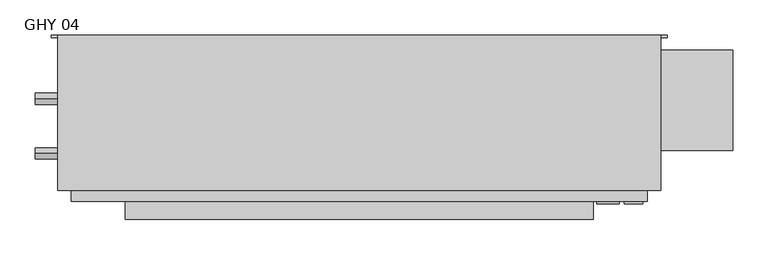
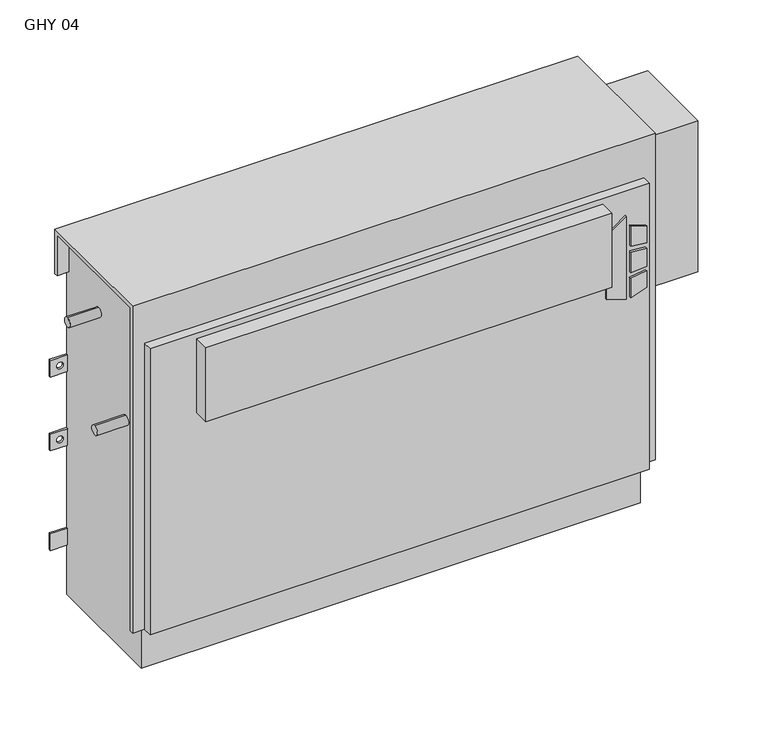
"""IFC4 building model written with IfcOpenShell, lengths in millimetres: proxy geometry, Vertical_Fan_Coil_Unit_-_GHY_-_IEC_-_2-Pipe_FS-FR_LH_2022 : GHY 04."""

import ifcopenshell
import ifcopenshell.guid

model = None  # the IFC model being written
_history = None  # IfcOwnerHistory: only IFC2X3 demands one
_inside = {}  # id of a spatial element -> (the spatial element, [elements in it])
_under = {}  # id of a project, library or spatial element -> (it, [spatial elements below it])
_declared = {}  # id of a project -> (the project, [libraries it declares])
_typed = {}  # id of a type object -> (the type object, [elements of that type])
_made_of = {}  # id of a material, layer set ... -> (it, [elements and type objects made of it])


def new_model(schema):
    """Start an empty IFC model of exactly this schema.

    Asked for "IFC4X3", IfcOpenShell would pick the latest addendum, in which some entities
    have other attributes; the version numbers below select the first issue.
    IFC2X3 requires an IfcOwnerHistory on every rooted entity: one is made here for all.
    """
    global model, _history
    if schema == "IFC4X3":
        model = ifcopenshell.file(schema_version=(4, 3, 0, 0))
    else:
        model = ifcopenshell.file(schema=schema)
    _inside.clear()
    _under.clear()
    _declared.clear()
    _typed.clear()
    _made_of.clear()
    _history = None
    if model.schema == "IFC2X3":
        org = make("IfcOrganization", Name="unknown")
        user = make(
            "IfcPersonAndOrganization",
            ThePerson=make("IfcPerson", FamilyName="unknown"),
            TheOrganization=org,
        )
        app = make(
            "IfcApplication",
            ApplicationDeveloper=org,
            Version="unknown",
            ApplicationFullName="unknown",
            ApplicationIdentifier="unknown",
        )
        _history = make(
            "IfcOwnerHistory",
            OwningUser=user,
            OwningApplication=app,
            ChangeAction="ADDED",
            CreationDate=0,
        )
    return model


def make(cls, **values):
    """One entity of the class cls with the attributes given. An attribute that is None is left unset."""
    return model.create_entity(
        cls, **{name: value for name, value in values.items() if value is not None}
    )


def rooted(cls, **values):
    """An entity with a GlobalId (a new one), such as an element, a storey or a relation."""
    return make(cls, GlobalId=ifcopenshell.guid.new(), OwnerHistory=_history, **values)


def si_unit(unit_type, name, prefix=None):
    """IfcSIUnit, for example si_unit("LENGTHUNIT", "METRE", prefix="MILLI")."""
    return make("IfcSIUnit", UnitType=unit_type, Prefix=prefix, Name=name)


def assignment(units):
    """IfcUnitAssignment: the units of a project."""
    return None if units is None else make("IfcUnitAssignment", Units=units)


def point(xyz):
    """IfcCartesianPoint."""
    return None if xyz is None else make("IfcCartesianPoint", Coordinates=xyz)


def direction(xyz):
    """IfcDirection."""
    return None if xyz is None else make("IfcDirection", DirectionRatios=xyz)


def frame(location, z_axis=None, x_axis=None):
    """IfcAxis2Placement3D, a coordinate frame: its origin and axes. An axis left out is left unset."""
    return make(
        "IfcAxis2Placement3D",
        Location=point(location),
        Axis=direction(z_axis),
        RefDirection=direction(x_axis),
    )


def frame_2d(location, x_axis=None):
    """IfcAxis2Placement2D, a coordinate frame in the plane: its origin and x axis."""
    return make(
        "IfcAxis2Placement2D", Location=point(location), RefDirection=direction(x_axis)
    )


def origin():
    """The frame at (0, 0, 0) with its axes left unset."""
    return frame((0.0, 0.0, 0.0))


def place(relative_to, where):
    """IfcLocalPlacement: puts the frame where relative to a parent placement (None: the world)."""
    return make(
        "IfcLocalPlacement", PlacementRelTo=relative_to, RelativePlacement=where
    )


def context(
    kind, dimensions, precision=None, world=None, true_north=None, identifier=None
):
    """IfcGeometricRepresentationContext, for example the 3D "Model" context."""
    return make(
        "IfcGeometricRepresentationContext",
        ContextIdentifier=identifier,
        ContextType=kind,
        CoordinateSpaceDimension=dimensions,
        Precision=precision,
        WorldCoordinateSystem=world,
        TrueNorth=true_north,
    )


def project(units=None, contexts=None):
    """IfcProject with its units and contexts."""
    return rooted(
        "IfcProject",
        Name="project",
        RepresentationContexts=contexts,
        UnitsInContext=assignment(units),
    )


def spatial(cls, under=None, at=None, **own):
    """A site, building, storey or space (cls), placed at a placement, below another one or the project."""
    s = rooted(cls, ObjectPlacement=at, **own)
    if under is not None:
        _under.setdefault(under.id(), (under, []))[1].append(s)
    return s


def polyline(points):
    """IfcPolyline through the points."""
    return make("IfcPolyline", Points=[point(p) for p in points])


def circle_curve(where, radius):
    """IfcCircle in the frame where."""
    return make("IfcCircle", Position=where, Radius=radius)


def trimmed(basis, trim1, trim2, sense, master):
    """IfcTrimmedCurve: the piece of a basis curve between two trims."""
    return make(
        "IfcTrimmedCurve",
        BasisCurve=basis,
        Trim1=trim1,
        Trim2=trim2,
        SenseAgreement=sense,
        MasterRepresentation=master,
    )


def segment(curve, same_sense, transition):
    """IfcCompositeCurveSegment."""
    return make(
        "IfcCompositeCurveSegment",
        Transition=transition,
        SameSense=same_sense,
        ParentCurve=curve,
    )


def composite_curve(segments, self_intersect=None):
    """IfcCompositeCurve: segments joined end to end."""
    return make("IfcCompositeCurve", Segments=segments, SelfIntersect=self_intersect)


def outline(outer, holes=None, kind="AREA"):
    """IfcArbitraryClosedProfileDef: a profile drawn as a closed curve; with holes, ...WithVoids."""
    if holes is None:
        return make("IfcArbitraryClosedProfileDef", ProfileType=kind, OuterCurve=outer)
    return make(
        "IfcArbitraryProfileDefWithVoids",
        ProfileType=kind,
        OuterCurve=outer,
        InnerCurves=holes,
    )


def extrude(swept, where, along, depth):
    """IfcExtrudedAreaSolid: the profile swept, set in the frame where, extruded along a direction by depth."""
    return make(
        "IfcExtrudedAreaSolid",
        SweptArea=swept,
        Position=where,
        ExtrudedDirection=direction(along),
        Depth=depth,
    )


def shape(context_of_items, identifier, shape_type, items):
    """IfcShapeRepresentation: the items that make up one representation, for example the "Body"."""
    return make(
        "IfcShapeRepresentation",
        ContextOfItems=context_of_items,
        RepresentationIdentifier=identifier,
        RepresentationType=shape_type,
        Items=items,
    )


def source(mapping_origin, context_of_items, identifier, shape_type, items):
    """IfcRepresentationMap: a shape defined once, which mapped items show again and again."""
    return make(
        "IfcRepresentationMap",
        MappingOrigin=mapping_origin,
        MappedRepresentation=shape(context_of_items, identifier, shape_type, items),
    )


def transform(
    local_origin,
    x_axis=None,
    y_axis=None,
    z_axis=None,
    scale=None,
    scale2=None,
    scale3=None,
    uniform=True,
):
    """IfcCartesianTransformationOperator3D, or its non-uniform kind. x_axis, y_axis, z_axis: its Axis1, 2, 3."""
    if uniform:
        return make(
            "IfcCartesianTransformationOperator3D",
            Axis1=direction(x_axis),
            Axis2=direction(y_axis),
            LocalOrigin=point(local_origin),
            Scale=scale,
            Axis3=direction(z_axis),
        )
    return make(
        "IfcCartesianTransformationOperator3DnonUniform",
        Axis1=direction(x_axis),
        Axis2=direction(y_axis),
        LocalOrigin=point(local_origin),
        Scale=scale,
        Axis3=direction(z_axis),
        Scale2=scale2,
        Scale3=scale3,
    )


def mapped(mapping_source, mapping_target):
    """IfcMappedItem: shows the shape of a source again, moved by a transform."""
    return make(
        "IfcMappedItem", MappingSource=mapping_source, MappingTarget=mapping_target
    )


def made_of(thing, what):
    """Note that an element or type object is made of a material, layer set ...; save() writes the relation."""
    if what is not None:
        _made_of.setdefault(what.id(), (what, []))[1].append(thing)
    return thing


def element(
    cls,
    number,
    at=None,
    inside=None,
    cuts=None,
    type_object=None,
    material=None,
    context=None,
    identifier="Body",
    shape_type=None,
    held_by="IfcProductDefinitionShape",
    body=None,
    shapes=None,
    **own,
):
    """One element of the class cls, such as IfcWall. Its Tag is "e" and its number.

    at: its placement. inside: the storey or other place that contains it. cuts: it is an
    opening in that element (IfcRelVoidsElement). A single representation is given by context,
    identifier, shape_type and body (its items); several are given by shapes. held_by: the class
    of the entity that holds the representations. save() writes the other relations.
    """
    e = rooted(cls, Tag="e%d" % number, ObjectPlacement=at, **own)
    if body is not None:
        shapes = [shape(context, identifier, shape_type, body)]
    if shapes is not None:
        e.Representation = make(held_by, Representations=shapes)
    if inside is not None:
        _inside.setdefault(inside.id(), (inside, []))[1].append(e)
    if cuts is not None:
        rooted(
            "IfcRelVoidsElement", RelatingBuildingElement=cuts, RelatedOpeningElement=e
        )
    if type_object is not None:
        _typed.setdefault(type_object.id(), (type_object, []))[1].append(e)
    return made_of(e, material)


def aggregate(whole, parts):
    """IfcRelAggregates: a whole, such as a stair, and the parts it consists of."""
    return rooted("IfcRelAggregates", RelatingObject=whole, RelatedObjects=parts)


def save(model, path):
    """Write the relations noted so far, then the file.

    IfcRelAggregates (storeys below a building ...), IfcRelContainedInSpatialStructure (elements
    in a storey), IfcRelDefinesByType, IfcRelAssociatesMaterial and IfcRelDeclares: one each for
    every whole, place, type object, material and project.
    """
    for whole, parts in _under.values():
        aggregate(whole, parts)
    for where, things in _inside.values():
        rooted(
            "IfcRelContainedInSpatialStructure",
            RelatedElements=things,
            RelatingStructure=where,
        )
    for kind, things in _typed.values():
        rooted("IfcRelDefinesByType", RelatedObjects=things, RelatingType=kind)
    for what, things in _made_of.values():
        rooted("IfcRelAssociatesMaterial", RelatedObjects=things, RelatingMaterial=what)
    for by, libraries in _declared.values():
        rooted("IfcRelDeclares", RelatingContext=by, RelatedDefinitions=libraries)
    model.write(path)


def plane_surface(at):
    """IfcPlane: the flat surface through the origin of the frame at, square to its z axis."""
    return make("IfcPlane", Position=at)


def revolved_surface(curve, axis_point, axis_direction):
    """IfcSurfaceOfRevolution: the curve turned about the line through axis_point along axis_direction."""
    return make(
        "IfcSurfaceOfRevolution",
        SweptCurve=make("IfcArbitraryOpenProfileDef", ProfileType="CURVE", Curve=curve),
        AxisPosition=make("IfcAxis1Placement", Location=point(axis_point), Axis=direction(axis_direction)),
    )


def advanced_brep(points, edges, surfaces, faces):
    """IfcAdvancedBrep: a solid bounded by faces that lie on surfaces and meet in shared edges.

    An edge is (start, end): straight between two places in points (the first is 0);
    or (start, end, curve); or (start, end, curve, False) where it runs against its curve.
    A face is (place in surfaces, loops), or (place, loops, False) where it looks against
    its surface's normal. A loop lists edges by number (the first is 1), with a minus sign
    where the edge is run from its end to its start. The first loop is the outer one.
    """
    corners = [point(p) for p in points]
    vertices = [make("IfcVertexPoint", VertexGeometry=c) for c in corners]
    made = []
    for start, end, *more in edges:
        made.append(
            make(
                "IfcEdgeCurve",
                EdgeStart=vertices[start],
                EdgeEnd=vertices[end],
                EdgeGeometry=more[0] if more else make("IfcPolyline", Points=[corners[start], corners[end]]),
                SameSense=more[1] if len(more) > 1 else True,
            )
        )
    hull = []
    for where, loops, *sense in faces:
        bounds = []
        for j, loop in enumerate(loops):
            ring = [make("IfcOrientedEdge", EdgeElement=made[abs(k) - 1], Orientation=k > 0) for k in loop]
            bounds.append(
                make(
                    "IfcFaceOuterBound" if j == 0 else "IfcFaceBound",
                    Bound=make("IfcEdgeLoop", EdgeList=ring),
                    Orientation=True,
                )
            )
        hull.append(make("IfcAdvancedFace", Bounds=bounds, FaceSurface=surfaces[where], SameSense=sense[0] if sense else True))
    return make("IfcAdvancedBrep", Outer=make("IfcClosedShell", CfsFaces=hull))


def ghy_04_a8ed0f7e(model_context):
    return source(origin(), model_context, "Body", "SolidModel", [
        extrude(outline(polyline([(391.6086829, 487.4368862), (381.6606126, 519.6102728), (523.831537, 519.6102728), (500.8095309, 487.4368862), (391.6086829, 487.4368862)])), frame((0.0, 6.35, 0.0), z_axis=(0.0, 1.0, 0.0), x_axis=(0.0, 0.0, 1.0)), (0.0, 0.0, 1.0), 3.175),
        extrude(outline(polyline([(470.6079683, 526.3686058), (467.4055757, 552.45), (496.6344168, 552.45), (504.6988318, 526.3686058), (470.6079683, 526.3686058)])), frame((0.0, 6.35, 0.0), z_axis=(0.0, 1.0, 0.0), x_axis=(0.0, 0.0, 1.0)), (0.0, 0.0, 1.0), 3.175),
        extrude(outline(polyline([(418.7444414, 552.45), (415.0789404, 526.3686058), (381.6606126, 526.3686058), (390.2948498, 552.45), (418.7444414, 552.45)])), frame((0.0, 6.35, 0.0), z_axis=(0.0, 1.0, 0.0), x_axis=(0.0, 0.0, 1.0)), (0.0, 0.0, 1.0), 3.175),
        extrude(outline(polyline([(458.0596028, 552.45), (460.3414292, 526.3686058), (424.4038806, 526.3686058), (427.1451456, 552.45), (458.0596028, 552.45)])), frame((0.0, 6.35, 0.0), z_axis=(0.0, 1.0, 0.0), x_axis=(0.0, 0.0, 1.0)), (0.0, 0.0, 1.0), 3.175),
        extrude(outline(polyline([(482.6, -15.875), (-177.8, -15.875), (-177.8, 9.525), (482.6, 9.525), (482.6, -15.875)])), frame((0.0, 0.0, 428.625), z_axis=(0.0, 0.0, 1.0), x_axis=(1.0, 0.0, 0.0)), (0.0, 0.0, 1.0), 127.0),
        extrude(outline(composite_curve([segment(trimmed(circle_curve(frame_2d((77.597, 401.574)), 7.9375), [point((77.597, 409.5115))], [point((77.597, 393.6365))], False, "CARTESIAN"), True, "CONTINUOUS"), segment(trimmed(circle_curve(frame_2d((77.597, 401.574)), 7.9375), [point((77.597, 393.6365))], [point((77.597, 409.5115))], False, "CARTESIAN"), True, "CONTINUOUS")], self_intersect=False)), frame((-304.8, 0.0, 0.0), z_axis=(1.0, 0.0, 0.0), x_axis=(0.0, 1.0, 0.0)), (0.0, 0.0, 1.0), 50.8),
        extrude(outline(composite_curve([segment(trimmed(circle_curve(frame_2d((154.559, 540.512)), 7.9375), [point((154.559, 548.4495))], [point((154.559, 532.5745))], False, "CARTESIAN"), True, "CONTINUOUS"), segment(trimmed(circle_curve(frame_2d((154.559, 540.512)), 7.9375), [point((154.559, 532.5745))], [point((154.559, 548.4495))], False, "CARTESIAN"), True, "CONTINUOUS")], self_intersect=False)), frame((-304.8, 0.0, 0.0), z_axis=(1.0, 0.0, 0.0), x_axis=(0.0, 1.0, 0.0)), (0.0, 0.0, 1.0), 50.8),
        extrude(outline(polyline([(679.45, 223.266), (679.45, 81.534), (558.8, 81.534), (558.8, 223.266), (679.45, 223.266)])), frame((0.0, 0.0, 327.025), z_axis=(0.0, 0.0, 1.0), x_axis=(1.0, 0.0, 0.0)), (0.0, 0.0, 1.0), 260.35),
        advanced_brep(
        [(577.85, 244.475, 635.0), (-273.05, 244.475, 635.0), (-273.05, 25.4, 635.0), (577.85, 25.4, 635.0), (-254.0, 244.475, 0.0), (558.8, 244.475, 0.0), (558.8, 34.925, 0.0), (-254.0, 34.925, 0.0), (577.85, 244.475, 558.8), (558.8, 244.475, 558.8), (558.8, 244.475, 414.3375), (587.375, 244.475, 414.3375), (587.375, 244.475, 385.7625), (558.8, 244.475, 385.7625), (558.8, 244.475, 287.3375), (587.375, 244.475, 287.3375), (587.375, 244.475, 258.7625), (558.8, 244.475, 258.7625), (558.8, 244.475, 141.2875), (587.375, 244.475, 141.2875), (587.375, 244.475, 112.7125), (558.8, 244.475, 112.7125), (-254.0, 244.475, 87.3125), (-282.575, 244.475, 87.3125), (-282.575, 244.475, 115.8875), (-254.0, 244.475, 115.8875), (-254.0, 244.475, 258.7625), (-282.575, 244.475, 258.7625), (-282.575, 244.475, 287.3375), (-254.0, 244.475, 287.3375), (-254.0, 244.475, 385.7625), (-282.575, 244.475, 385.7625), (-282.575, 244.475, 414.3375), (-254.0, 244.475, 414.3375), (-254.0, 244.475, 558.8), (-273.05, 244.475, 558.8), (577.0626, 244.475, 127.0), (565.9374, 244.475, 127.0), (577.0626, 244.475, 273.05), (565.9374, 244.475, 273.05), (-261.1374, 244.475, 273.05), (-272.2626, 244.475, 273.05), (577.0626, 244.475, 400.05), (565.9374, 244.475, 400.05), (-261.1374, 244.475, 400.05), (-272.2626, 244.475, 400.05), (-273.05, 238.125, 558.8), (-273.05, 238.125, 628.65), (-273.05, 31.75, 628.65), (-273.05, 31.75, 73.025), (-273.05, 25.4, 73.025), (558.8, 9.525, 565.15), (-254.0, 9.525, 565.15), (-254.0, 9.525, 73.025), (558.8, 9.525, 73.025), (577.85, 25.4, 73.025), (577.85, 31.75, 73.025), (577.85, 31.75, 628.65), (577.85, 238.125, 628.65), (577.85, 238.125, 558.8), (-254.0, 25.4, 73.025), (-254.0, 25.4, 565.15), (558.8, 25.4, 565.15), (558.8, 25.4, 73.025), (-254.0, 31.75, 73.025), (-254.0, 34.925, 73.025), (558.8, 34.925, 73.025), (558.8, 31.75, 73.025), (558.8, 241.3, 112.7125), (558.8, 241.3, 141.2875), (558.8, 241.3, 258.7625), (558.8, 241.3, 287.3375), (558.8, 241.3, 385.7625), (558.8, 241.3, 414.3375), (558.8, 238.125, 558.8), (558.8, 238.125, 628.65), (558.8, 31.75, 628.65), (-254.0, 31.75, 628.65), (-254.0, 238.125, 628.65), (-254.0, 238.125, 558.8), (-254.0, 241.3, 414.3375), (-254.0, 241.3, 385.7625), (-254.0, 241.3, 287.3375), (-254.0, 241.3, 258.7625), (-254.0, 241.3, 115.8875), (-254.0, 241.3, 87.3125), (587.375, 241.3, 112.7125), (587.375, 241.3, 141.2875), (565.9374, 241.3, 127.0), (577.0626, 241.3, 127.0), (587.375, 241.3, 258.7625), (587.375, 241.3, 287.3375), (565.9374, 241.3, 273.05), (577.0626, 241.3, 273.05), (587.375, 241.3, 385.7625), (587.375, 241.3, 414.3375), (565.9374, 241.3, 400.05), (577.0626, 241.3, 400.05), (-282.575, 241.3, 115.8875), (-282.575, 241.3, 87.3125), (-282.575, 241.3, 287.3375), (-282.575, 241.3, 258.7625), (-272.2626, 241.3, 273.05), (-261.1374, 241.3, 273.05), (-282.575, 241.3, 414.3375), (-282.575, 241.3, 385.7625), (-272.2626, 241.3, 400.05), (-261.1374, 241.3, 400.05)],
        [
            (0, 1),
            (1, 2),
            (2, 3),
            (3, 0),
            (4, 5),
            (5, 6),
            (6, 7),
            (7, 4),
            (0, 8),
            (8, 9),
            (9, 10),
            (10, 11),
            (11, 12),
            (12, 13),
            (13, 14),
            (14, 15),
            (15, 16),
            (16, 17),
            (17, 18),
            (18, 19),
            (19, 20),
            (20, 21),
            (21, 5),
            (4, 22),
            (22, 23),
            (23, 24),
            (24, 25),
            (25, 26),
            (26, 27),
            (27, 28),
            (28, 29),
            (29, 30),
            (30, 31),
            (31, 32),
            (32, 33),
            (33, 34),
            (34, 35),
            (35, 1),
            (36, 37, circle_curve(frame((571.5, 244.475, 127.0), z_axis=(0.0, -1.0, 0.0), x_axis=(-1.0, 0.0, 0.0)), 5.5626)),
            (37, 36, circle_curve(frame((571.5, 244.475, 127.0), z_axis=(0.0, -1.0, 0.0), x_axis=(-1.0, 0.0, 0.0)), 5.5626)),
            (38, 39, circle_curve(frame((571.5, 244.475, 273.05), z_axis=(0.0, -1.0, 0.0), x_axis=(-1.0, 0.0, 0.0)), 5.5626)),
            (39, 38, circle_curve(frame((571.5, 244.475, 273.05), z_axis=(0.0, -1.0, 0.0), x_axis=(-1.0, 0.0, 0.0)), 5.5626)),
            (40, 41, circle_curve(frame((-266.7, 244.475, 273.05), z_axis=(0.0, -1.0, 0.0), x_axis=(-1.0, 0.0, 0.0)), 5.5626)),
            (41, 40, circle_curve(frame((-266.7, 244.475, 273.05), z_axis=(0.0, -1.0, 0.0), x_axis=(-1.0, 0.0, 0.0)), 5.5626)),
            (42, 43, circle_curve(frame((571.5, 244.475, 400.05), z_axis=(0.0, -1.0, 0.0), x_axis=(-1.0, 0.0, 0.0)), 5.5626)),
            (43, 42, circle_curve(frame((571.5, 244.475, 400.05), z_axis=(0.0, -1.0, 0.0), x_axis=(-1.0, 0.0, 0.0)), 5.5626)),
            (44, 45, circle_curve(frame((-266.7, 244.475, 400.05), z_axis=(0.0, -1.0, 0.0), x_axis=(-1.0, 0.0, 0.0)), 5.5626)),
            (45, 44, circle_curve(frame((-266.7, 244.475, 400.05), z_axis=(0.0, -1.0, 0.0), x_axis=(-1.0, 0.0, 0.0)), 5.5626)),
            (35, 46),
            (46, 47),
            (47, 48),
            (48, 49),
            (49, 50),
            (50, 2),
            (51, 52),
            (52, 53),
            (53, 54),
            (54, 51),
            (3, 55),
            (55, 56),
            (56, 57),
            (57, 58),
            (58, 59),
            (59, 8),
            (50, 60),
            (60, 61),
            (61, 62),
            (62, 63),
            (63, 55),
            (51, 62),
            (61, 52),
            (53, 60),
            (49, 64),
            (64, 65),
            (65, 66),
            (66, 67),
            (67, 56),
            (63, 54),
            (6, 66),
            (65, 7),
            (21, 68),
            (68, 69),
            (69, 18),
            (17, 70),
            (70, 71),
            (71, 14),
            (13, 72),
            (72, 73),
            (73, 10),
            (9, 74),
            (74, 75),
            (75, 76),
            (76, 67),
            (64, 77),
            (77, 78),
            (78, 79),
            (79, 34),
            (33, 80),
            (80, 81),
            (81, 30),
            (29, 82),
            (82, 83),
            (83, 26),
            (25, 84),
            (84, 85),
            (85, 22),
            (74, 59),
            (58, 75),
            (76, 57),
            (48, 77),
            (79, 46),
            (78, 47),
            (68, 86),
            (86, 87),
            (87, 69),
            (88, 89, circle_curve(frame((571.5, 241.3, 127.0), z_axis=(0.0, 1.0, 0.0), x_axis=(-1.0, 0.0, 0.0)), 5.5626)),
            (89, 88, circle_curve(frame((571.5, 241.3, 127.0), z_axis=(0.0, 1.0, 0.0), x_axis=(-1.0, 0.0, 0.0)), 5.5626)),
            (90, 91),
            (91, 71),
            (70, 90),
            (92, 93, circle_curve(frame((571.5, 241.3, 273.05), z_axis=(0.0, 1.0, 0.0), x_axis=(-1.0, 0.0, 0.0)), 5.5626)),
            (93, 92, circle_curve(frame((571.5, 241.3, 273.05), z_axis=(0.0, 1.0, 0.0), x_axis=(-1.0, 0.0, 0.0)), 5.5626)),
            (94, 95),
            (95, 73),
            (72, 94),
            (96, 97, circle_curve(frame((571.5, 241.3, 400.05), z_axis=(0.0, 1.0, 0.0), x_axis=(-1.0, 0.0, 0.0)), 5.5626)),
            (97, 96, circle_curve(frame((571.5, 241.3, 400.05), z_axis=(0.0, 1.0, 0.0), x_axis=(-1.0, 0.0, 0.0)), 5.5626)),
            (98, 99),
            (99, 85),
            (84, 98),
            (82, 100),
            (100, 101),
            (101, 83),
            (102, 103, circle_curve(frame((-266.7, 241.3, 273.05), z_axis=(0.0, 1.0, 0.0), x_axis=(-1.0, 0.0, 0.0)), 5.5626)),
            (103, 102, circle_curve(frame((-266.7, 241.3, 273.05), z_axis=(0.0, 1.0, 0.0), x_axis=(-1.0, 0.0, 0.0)), 5.5626)),
            (104, 105),
            (105, 81),
            (80, 104),
            (106, 107, circle_curve(frame((-266.7, 241.3, 400.05), z_axis=(0.0, 1.0, 0.0), x_axis=(-1.0, 0.0, 0.0)), 5.5626)),
            (107, 106, circle_curve(frame((-266.7, 241.3, 400.05), z_axis=(0.0, 1.0, 0.0), x_axis=(-1.0, 0.0, 0.0)), 5.5626)),
            (87, 19),
            (86, 20),
            (16, 90),
            (91, 15),
            (12, 94),
            (95, 11),
            (24, 98),
            (99, 23),
            (101, 27),
            (100, 28),
            (32, 104),
            (105, 31),
            (88, 37),
            (36, 89),
            (92, 39),
            (38, 93),
            (102, 41),
            (40, 103),
            (96, 43),
            (42, 97),
            (106, 45),
            (44, 107),
        ],
        [
            plane_surface(frame((-273.05, 244.475, 635.0), z_axis=(0.0, 0.0, 1.0), x_axis=(-1.0, 0.0, 0.0))),
            plane_surface(frame((-273.05, 244.475, 0.0), z_axis=(0.0, 0.0, -1.0), x_axis=(1.0, 0.0, 0.0))),
            plane_surface(frame((577.85, 244.475, 635.0), z_axis=(0.0, 1.0, 0.0), x_axis=(0.0, 0.0, -1.0))),
            plane_surface(frame((-273.05, 244.475, 635.0), z_axis=(-1.0, 0.0, 0.0), x_axis=(0.0, 0.0, -1.0))),
            plane_surface(frame((-273.05, 9.525, 635.0), z_axis=(0.0, -1.0, 0.0), x_axis=(0.0, 0.0, -1.0))),
            plane_surface(frame((577.85, 9.525, 635.0), z_axis=(1.0, 0.0, 0.0), x_axis=(0.0, 0.0, -1.0))),
            plane_surface(frame((-400.05, 25.4, 635.0), z_axis=(0.0, -1.0, 0.0), x_axis=(1.0, 0.0, 0.0))),
            plane_surface(frame((-400.05, 25.4, 565.15), z_axis=(0.0, 0.0, 1.0), x_axis=(1.0, 0.0, 0.0))),
            plane_surface(frame((-273.05, 9.525, 73.025), z_axis=(0.0, 0.0, -1.0), x_axis=(1.0, 0.0, 0.0))),
            plane_surface(frame((-273.05, 34.925, 73.025), z_axis=(0.0, -1.0, 0.0), x_axis=(1.0, 0.0, 0.0))),
            plane_surface(frame((558.8, 25.4, 73.025), z_axis=(1.0, 0.0, 0.0), x_axis=(0.0, -1.0, 0.0))),
            plane_surface(frame((-254.0, 25.4, 565.15), z_axis=(-1.0, 0.0, 0.0), x_axis=(0.0, -1.0, 0.0))),
            plane_surface(frame((558.8, 244.475, 0.0), z_axis=(1.0, 0.0, 0.0), x_axis=(0.0, -1.0, 0.0))),
            plane_surface(frame((-254.0, 244.475, 73.025), z_axis=(-1.0, 0.0, 0.0), x_axis=(0.0, -1.0, 0.0))),
            plane_surface(frame((558.8, 238.125, 628.65), z_axis=(0.0, -1.0, 0.0), x_axis=(1.0, 0.0, 0.0))),
            plane_surface(frame((558.8, 238.125, 558.8), z_axis=(0.0, 0.0, -1.0), x_axis=(1.0, 0.0, 0.0))),
            plane_surface(frame((558.8, 31.75, 73.025), z_axis=(0.0, 1.0, 0.0), x_axis=(1.0, 0.0, 0.0))),
            plane_surface(frame((558.8, 31.75, 628.65), z_axis=(0.0, 0.0, -1.0), x_axis=(1.0, 0.0, 0.0))),
            plane_surface(frame((-254.0, 31.75, 628.65), z_axis=(0.0, 1.0, 0.0), x_axis=(-1.0, 0.0, 0.0))),
            plane_surface(frame((-254.0, 244.475, 558.8), z_axis=(0.0, 0.0, -1.0), x_axis=(-1.0, 0.0, 0.0))),
            plane_surface(frame((-254.0, 238.125, 558.8), z_axis=(0.0, -1.0, 0.0), x_axis=(-1.0, 0.0, 0.0))),
            plane_surface(frame((-254.0, 238.125, 628.65), z_axis=(0.0, 0.0, -1.0), x_axis=(-1.0, 0.0, 0.0))),
            plane_surface(frame((587.375, 241.3, 141.2875), z_axis=(0.0, -1.0, 0.0), x_axis=(-1.0, 0.0, 0.0))),
            plane_surface(frame((558.8, 244.475, 141.2875), z_axis=(0.0, 0.0, 1.0), x_axis=(0.0, -1.0, 0.0))),
            plane_surface(frame((587.375, 244.475, 141.2875), z_axis=(1.0, 0.0, 0.0), x_axis=(0.0, -1.0, 0.0))),
            plane_surface(frame((587.375, 244.475, 112.7125), z_axis=(0.0, 0.0, -1.0), x_axis=(0.0, -1.0, 0.0))),
            plane_surface(frame((587.375, 244.475, 258.7625), z_axis=(0.0, 0.0, -1.0), x_axis=(0.0, -1.0, 0.0))),
            plane_surface(frame((558.8, 244.475, 287.3375), z_axis=(0.0, 0.0, 1.0), x_axis=(0.0, -1.0, 0.0))),
            plane_surface(frame((587.375, 244.475, 287.3375), z_axis=(1.0, 0.0, 0.0), x_axis=(0.0, -1.0, 0.0))),
            plane_surface(frame((587.375, 244.475, 385.7625), z_axis=(0.0, 0.0, -1.0), x_axis=(0.0, -1.0, 0.0))),
            plane_surface(frame((558.8, 244.475, 414.3375), z_axis=(0.0, 0.0, 1.0), x_axis=(0.0, -1.0, 0.0))),
            plane_surface(frame((587.375, 244.475, 414.3375), z_axis=(1.0, 0.0, 0.0), x_axis=(0.0, -1.0, 0.0))),
            plane_surface(frame((-282.575, 244.475, 115.8875), z_axis=(0.0, 0.0, 1.0), x_axis=(0.0, -1.0, 0.0))),
            plane_surface(frame((-254.0, 244.475, 87.3125), z_axis=(0.0, 0.0, -1.0), x_axis=(0.0, -1.0, 0.0))),
            plane_surface(frame((-282.575, 244.475, 87.3125), z_axis=(-1.0, 0.0, 0.0), x_axis=(0.0, -1.0, 0.0))),
            plane_surface(frame((-254.0, 244.475, 258.7625), z_axis=(0.0, 0.0, -1.0), x_axis=(0.0, -1.0, 0.0))),
            plane_surface(frame((-282.575, 244.475, 258.7625), z_axis=(-1.0, 0.0, 0.0), x_axis=(0.0, -1.0, 0.0))),
            plane_surface(frame((-282.575, 244.475, 287.3375), z_axis=(0.0, 0.0, 1.0), x_axis=(0.0, -1.0, 0.0))),
            plane_surface(frame((-282.575, 244.475, 414.3375), z_axis=(0.0, 0.0, 1.0), x_axis=(0.0, -1.0, 0.0))),
            plane_surface(frame((-254.0, 244.475, 385.7625), z_axis=(0.0, 0.0, -1.0), x_axis=(0.0, -1.0, 0.0))),
            plane_surface(frame((-282.575, 244.475, 385.7625), z_axis=(-1.0, 0.0, 0.0), x_axis=(0.0, -1.0, 0.0))),
            revolved_surface(polyline([(565.9374, 241.3, 127.0), (565.9374, 244.475, 127.0)]), (571.5, 244.475, 127.0), (0.0, -1.0, 0.0)),
            revolved_surface(polyline([(565.9374, 241.3, 273.05), (565.9374, 244.475, 273.05)]), (571.5, 244.475, 273.05), (0.0, -1.0, 0.0)),
            revolved_surface(polyline([(-272.26259999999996, 241.3, 273.05), (-272.26259999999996, 244.475, 273.05)]), (-266.7, 244.475, 273.05), (0.0, -1.0, 0.0)),
            revolved_surface(polyline([(565.9374, 241.3, 400.05), (565.9374, 244.475, 400.05)]), (571.5, 244.475, 400.05), (0.0, -1.0, 0.0)),
            revolved_surface(polyline([(-272.26259999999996, 241.3, 400.05), (-272.26259999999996, 244.475, 400.05)]), (-266.7, 244.475, 400.05), (0.0, -1.0, 0.0)),
        ],
        [
            (0, [[1, 2, 3, 4]]),
            (1, [[5, 6, 7, 8]]),
            (2, [[-1, 9, 10, 11, 12, 13, 14, 15, 16, 17, 18, 19, 20, 21, 22, 23, -5, 24, 25, 26, 27, 28, 29, 30, 31, 32, 33, 34, 35, 36, 37, 38], [39, 40], [41, 42], [43, 44], [45, 46], [47, 48]]),
            (3, [[-2, -38, 49, 50, 51, 52, 53, 54]]),
            (4, [[55, 56, 57, 58]]),
            (5, [[-4, 59, 60, 61, 62, 63, 64, -9]]),
            (6, [[-3, -54, 65, 66, 67, 68, 69, -59]]),
            (7, [[-55, 70, -67, 71]]),
            (8, [[-57, 72, -65, -53, 73, 74, 75, 76, 77, -60, -69, 78]]),
            (9, [[-7, 79, -75, 80]]),
            (10, [[-68, -70, -58, -78]]),
            (11, [[-66, -72, -56, -71]]),
            (12, [[-6, -23, 81, 82, 83, -19, 84, 85, 86, -15, 87, 88, 89, -11, 90, 91, 92, 93, -76, -79]]),
            (13, [[-8, -80, -74, 94, 95, 96, 97, -36, 98, 99, 100, -32, 101, 102, 103, -28, 104, 105, 106, -24]]),
            (14, [[-91, 107, -63, 108]]),
            (15, [[-90, -10, -64, -107]]),
            (16, [[-93, 109, -61, -77]]),
            (17, [[-92, -108, -62, -109]]),
            (18, [[-94, -73, -52, 110]]),
            (19, [[-97, 111, -49, -37]]),
            (20, [[-96, 112, -50, -111]]),
            (21, [[-95, -110, -51, -112]]),
            (22, [[113, 114, 115, -82], [116, 117]]),
            (22, [[118, 119, -85, 120], [121, 122]]),
            (22, [[123, 124, -88, 125], [126, 127]]),
            (22, [[128, 129, -105, 130]]),
            (22, [[131, 132, 133, -102], [134, 135]]),
            (22, [[136, 137, -99, 138], [139, 140]]),
            (23, [[-115, 141, -20, -83]]),
            (24, [[-114, 142, -21, -141]]),
            (25, [[-113, -81, -22, -142]]),
            (26, [[-120, -84, -18, 143]]),
            (27, [[-119, 144, -16, -86]]),
            (28, [[-118, -143, -17, -144]]),
            (29, [[-125, -87, -14, 145]]),
            (30, [[-124, 146, -12, -89]]),
            (31, [[-123, -145, -13, -146]]),
            (32, [[-130, -104, -27, 147]]),
            (33, [[-129, 148, -25, -106]]),
            (34, [[-128, -147, -26, -148]]),
            (35, [[-133, 149, -29, -103]]),
            (36, [[-132, 150, -30, -149]]),
            (37, [[-131, -101, -31, -150]]),
            (38, [[-138, -98, -35, 151]]),
            (39, [[-137, 152, -33, -100]]),
            (40, [[-136, -151, -34, -152]]),
            (41, [[153, -39, 154, -116]]),
            (41, [[-153, -117, -154, -40]]),
            (42, [[155, -41, 156, -121]]),
            (42, [[-155, -122, -156, -42]]),
            (43, [[157, -43, 158, -134]]),
            (43, [[-157, -135, -158, -44]]),
            (44, [[159, -45, 160, -126]]),
            (44, [[-159, -127, -160, -46]]),
            (45, [[161, -47, 162, -139]]),
            (45, [[-161, -140, -162, -48]]),
        ],
    ),
    ])


if __name__ == "__main__":
    model = new_model("IFC4")
    model_context = context("Model", 3, world=origin())
    ifc_project = project(units=[si_unit("LENGTHUNIT", "METRE", prefix="MILLI")], contexts=[model_context])
    site = spatial("IfcSite", under=ifc_project)
    building = spatial("IfcBuilding", under=site)
    placement = place(None, origin())
    ghy_04_shape = ghy_04_a8ed0f7e(model_context)
    element("IfcBuildingElementProxy", 1, Name="Vertical_Fan_Coil_Unit_-_GHY_-_IEC_-_2-Pipe_FS-FR_LH_2022 : GHY 04", ObjectType="Vertical_Fan_Coil_Unit_-_GHY_-_IEC_-_2-Pipe_FS-FR_LH_2022 : GHY 04", at=placement, inside=building, context=model_context, shape_type="MappedRepresentation", body=[
        mapped(ghy_04_shape, transform((0.0, 0.0, 0.0), x_axis=(1.0, 0.0, 0.0), y_axis=(0.0, 1.0, 0.0), z_axis=(0.0, 0.0, 1.0))),
    ])
    save(model, "model.ifc")
